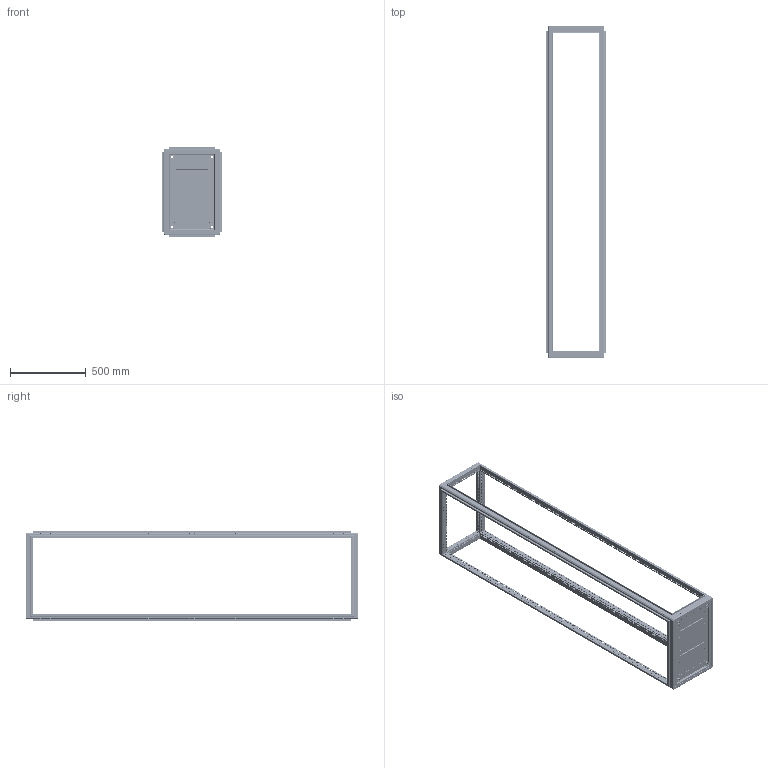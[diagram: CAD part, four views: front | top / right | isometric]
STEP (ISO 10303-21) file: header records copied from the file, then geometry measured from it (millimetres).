
FILE_DESCRIPTION(('STEP AP242'), '1');
FILE_NAME('ÊÑÊ.PRO.S.220.40.60 Êàðêàñ_ñåêöèîíèðîâàíèå', '', ('UNSPECIFIED'), ('UNSPECIFIED'), 'C3D Converter', 'C3D Toolkit', '');
FILE_SCHEMA(('AP242_MANAGED_MODEL_BASED_3D_ENGINEERING_MIM_LF { 1 0 10303 442 1 1 4 }'));
Length unit declared in the file: millimetre
Products named in the file (11): КСК.PRO.S.220.40.60; КСК.PRO.40.60; КСК.PRO.220; КСК.PRO.S.220; 2007.40.75; 2007.40.175; 2008.40.200
Assembly tree (19 placements, depth 2):
  КСК.PRO.S.220.40.60
    КСК.PRO.40.60
    КСК.PRO.220
    КСК.PRO.40.60
    КСК.PRO.220
    КСК.PRO.S.220
    КСК.PRO.S.220
    2007.40.75
    2007.40.175
    2008.40.200
    (unnamed)  x10
Bounding box: 397 x 2197 x 597 mm (x, y, z)
Volume: 3207097.5 mm3; surface area: 4111500.4 mm2
Topology: 19 solids, 19 shells, 8727 faces, 24675 edges, 16195 vertices
Faces by surface type: plane 6163, cylinder 2100, cone 344, bspline 60, sphere 32, torus 28
Full cylindrical faces by diameter (mm): 3.242 x56, 4.134 x172, 4.5 x1322, 4.8 x10, 6 x56, 7 x172, 10.106 x4, 13.835 x4, 14 x4, 21.545 x4
Entity records: 293305 total; most frequent: CARTESIAN_POINT 48812, ORIENTED_EDGE 43782, DIRECTION 42804, EDGE_CURVE 21891, LINE 17598, VECTOR 17598, EDGE_LOOP 16148, VERTEX_POINT 15681
